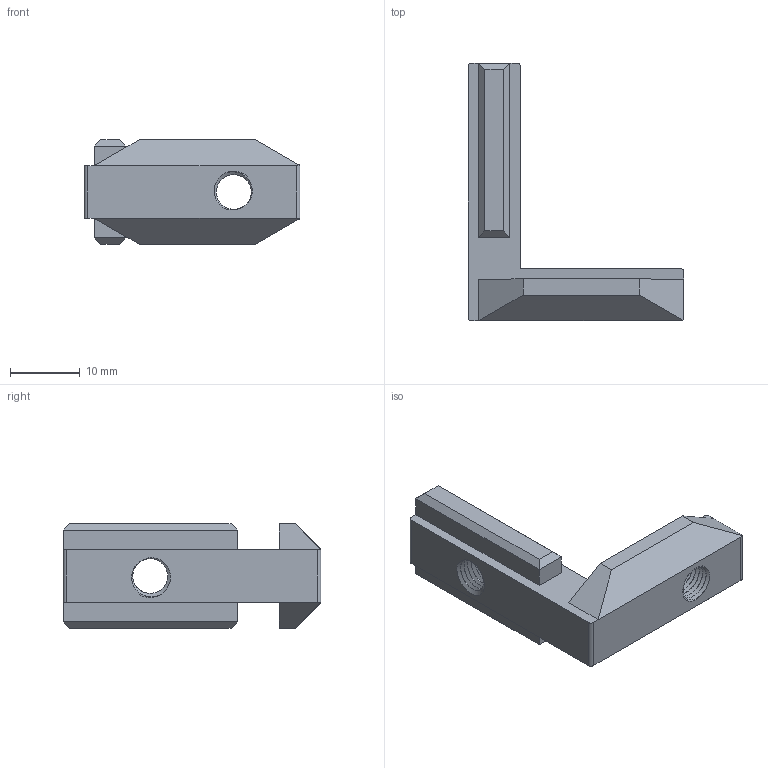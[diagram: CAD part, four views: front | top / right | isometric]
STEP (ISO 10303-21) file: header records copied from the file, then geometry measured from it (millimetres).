
FILE_DESCRIPTION (( 'STEP AP203' ), '1' );
FILE_NAME ('79-CE-IEZ3030-8.STEP', '2015-07-09T08:28:13', ( '' ), ( '' ), 'SwSTEP 2.0', 'SolidWorks 2013', '' );
FILE_SCHEMA (( 'CONFIG_CONTROL_DESIGN' ));
Length unit declared in the file: millimetre
Products named in the file (1): 79-CE-IEZ3030-8
Bounding box: 31 x 37 x 15 mm (x, y, z)
Volume: 4611.4 mm3; surface area: 2951.3 mm2
Topology: 1 solids, 1 shells, 89 faces, 249 edges, 162 vertices
Faces by surface type: cylinder 51, plane 34, bspline 4
Entity records: 5018 total; most frequent: CARTESIAN_POINT 2961, ORIENTED_EDGE 498, DIRECTION 327, EDGE_CURVE 249, VERTEX_POINT 162, VECTOR 131, LINE 131, AXIS2_PLACEMENT_3D 98
